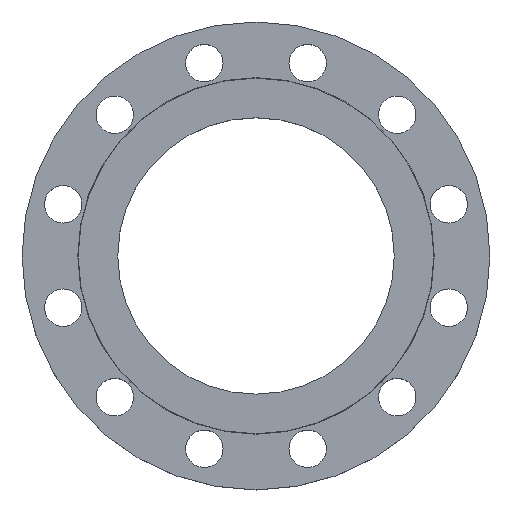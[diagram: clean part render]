
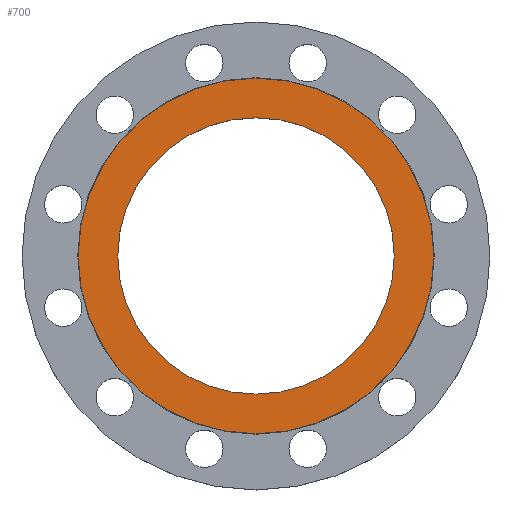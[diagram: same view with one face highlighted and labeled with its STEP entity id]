
A CAD part, top view. The second image highlights one B-rep face of the part: STEP entity #700.
In plain terms, the highlighted planar face has unit normal (0, 0, 1).
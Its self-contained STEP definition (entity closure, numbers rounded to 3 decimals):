
#20 = AXIS2_PLACEMENT_3D ( 'NONE', #781, #1138, #332 ) ;
#58 = EDGE_CURVE ( 'NONE', #914, #612, #217, .T. ) ;
#60 = EDGE_CURVE ( 'NONE', #99, #188, #963, .T. ) ;
#73 = CARTESIAN_POINT ( 'NONE',  ( 110.75, 0., 0. ) ) ;
#89 = DIRECTION ( 'NONE',  ( 1., 0., 0. ) ) ;
#91 = DIRECTION ( 'NONE',  ( -1., 0., 0. ) ) ;
#99 = VERTEX_POINT ( 'NONE', #449 ) ;
#146 = DIRECTION ( 'NONE',  ( 0., 0., -1. ) ) ;
#183 = PLANE ( 'NONE',  #420 ) ;
#188 = VERTEX_POINT ( 'NONE', #890 ) ;
#217 = CIRCLE ( 'NONE', #1112, 110.75 ) ;
#232 = AXIS2_PLACEMENT_3D ( 'NONE', #474, #816, #1168 ) ;
#294 = CIRCLE ( 'NONE', #805, 142.5 ) ;
#301 = ORIENTED_EDGE ( 'NONE', *, *, #60, .F. ) ;
#332 = DIRECTION ( 'NONE',  ( -1., 0., 0. ) ) ;
#365 = ORIENTED_EDGE ( 'NONE', *, *, #701, .T. ) ;
#420 = AXIS2_PLACEMENT_3D ( 'NONE', #561, #903, #89 ) ;
#421 = CIRCLE ( 'NONE', #232, 110.75 ) ;
#449 = CARTESIAN_POINT ( 'NONE',  ( -142.5, 0., 0. ) ) ;
#474 = CARTESIAN_POINT ( 'NONE',  ( 0., 0., 0. ) ) ;
#523 = DIRECTION ( 'NONE',  ( -1., 0., 0. ) ) ;
#561 = CARTESIAN_POINT ( 'NONE',  ( 0., 0., 0. ) ) ;
#563 = CARTESIAN_POINT ( 'NONE',  ( 0., 0., 0. ) ) ;
#612 = VERTEX_POINT ( 'NONE', #73 ) ;
#651 = FACE_BOUND ( 'NONE', #772, .T. ) ;
#700 = ADVANCED_FACE ( 'NONE', ( #651, #1004 ), #183, .T. ) ;
#701 = EDGE_CURVE ( 'NONE', #612, #914, #421, .T. ) ;
#772 = EDGE_LOOP ( 'NONE', ( #946, #365 ) ) ;
#781 = CARTESIAN_POINT ( 'NONE',  ( 0., 0., 0. ) ) ;
#805 = AXIS2_PLACEMENT_3D ( 'NONE', #563, #905, #91 ) ;
#816 = DIRECTION ( 'NONE',  ( 0., 0., -1. ) ) ;
#890 = CARTESIAN_POINT ( 'NONE',  ( 142.5, 0., 0. ) ) ;
#903 = DIRECTION ( 'NONE',  ( 0., 0., 1. ) ) ;
#905 = DIRECTION ( 'NONE',  ( 0., 0., -1. ) ) ;
#914 = VERTEX_POINT ( 'NONE', #1146 ) ;
#946 = ORIENTED_EDGE ( 'NONE', *, *, #58, .T. ) ;
#963 = CIRCLE ( 'NONE', #20, 142.5 ) ;
#964 = CARTESIAN_POINT ( 'NONE',  ( 0., 0., 0. ) ) ;
#994 = EDGE_LOOP ( 'NONE', ( #301, #1020 ) ) ;
#1004 = FACE_OUTER_BOUND ( 'NONE', #994, .T. ) ;
#1007 = EDGE_CURVE ( 'NONE', #188, #99, #294, .T. ) ;
#1020 = ORIENTED_EDGE ( 'NONE', *, *, #1007, .F. ) ;
#1112 = AXIS2_PLACEMENT_3D ( 'NONE', #964, #146, #523 ) ;
#1138 = DIRECTION ( 'NONE',  ( 0., 0., -1. ) ) ;
#1146 = CARTESIAN_POINT ( 'NONE',  ( -110.75, 0., 0. ) ) ;
#1168 = DIRECTION ( 'NONE',  ( -1., 0., 0. ) ) ;
